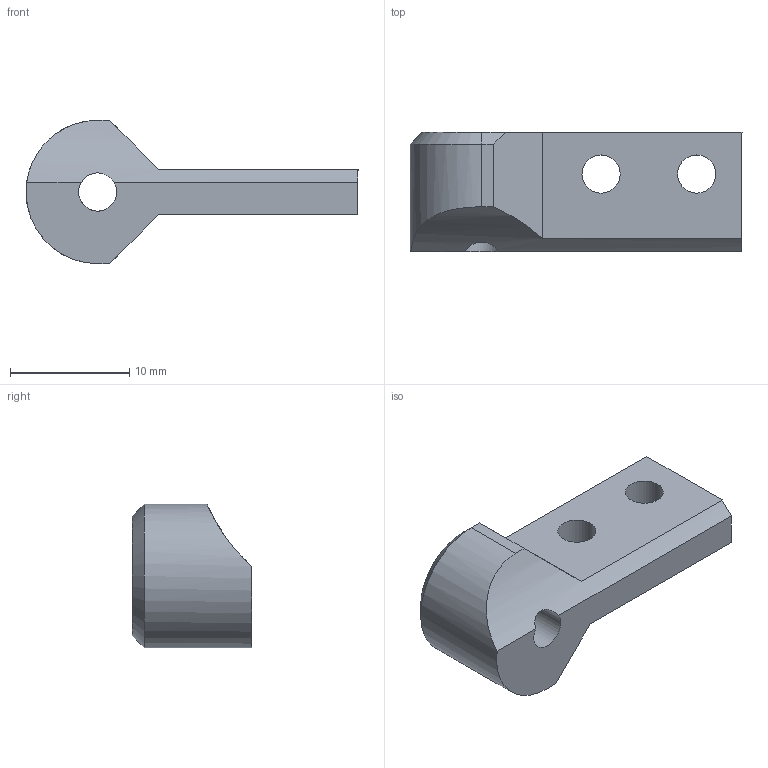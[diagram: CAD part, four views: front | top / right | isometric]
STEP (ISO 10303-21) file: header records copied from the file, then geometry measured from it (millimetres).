
FILE_DESCRIPTION(/* description */ (''),/* implementation_level */ '2;1');
FILE_NAME(/* name */ '3-14-2 Bottom wishbone insert right TPU.step',/* time_stamp */ '2025-05-10T22:04:27+02:00',/* author */ (''),/* organization */ (''),/* preprocessor_version */ 'ST-DEVELOPER v20.1',/* originating_system */ 'Autodesk Translation Framework v14.4.0.0',/* authorisation */ '');
FILE_SCHEMA (('AUTOMOTIVE_DESIGN { 1 0 10303 214 3 1 1 }'));
Length unit declared in the file: millimetre
Products named in the file (1): 3-14-2 Bottom wishbone insert right TPU
Bounding box: 27.8 x 10 x 12 mm (x, y, z)
Volume: 1407.1 mm3; surface area: 1096.6 mm2
Topology: 1 solids, 1 shells, 17 faces, 46 edges, 30 vertices
Faces by surface type: plane 11, cylinder 5, cone 1
Full cylindrical faces by diameter (mm): 3.2 x3
Entity records: 612 total; most frequent: CARTESIAN_POINT 125, ORIENTED_EDGE 92, DIRECTION 90, EDGE_CURVE 46, LINE 32, VECTOR 32, VERTEX_POINT 30, AXIS2_PLACEMENT_3D 29
